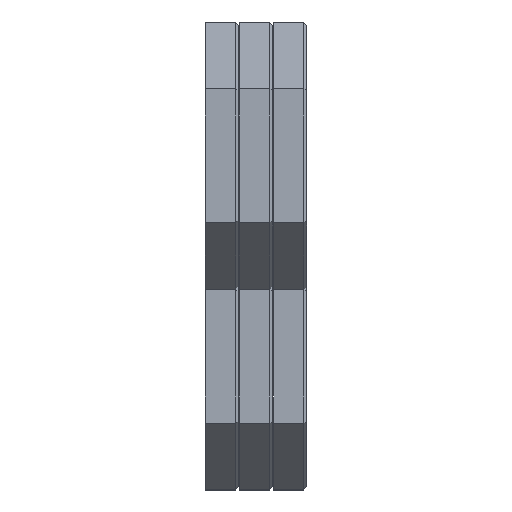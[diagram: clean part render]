
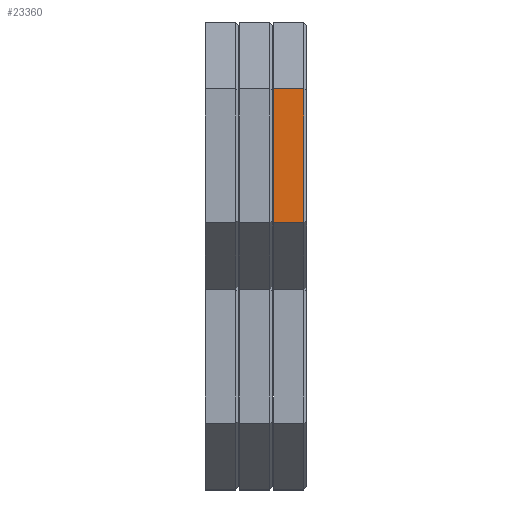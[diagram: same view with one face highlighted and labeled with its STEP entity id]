
A CAD part, front view. The second image highlights one B-rep face of the part: STEP entity #23360.
In plain terms, the highlighted planar face has unit normal (0, -1, 0).
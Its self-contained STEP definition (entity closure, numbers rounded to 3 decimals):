
#559=PLANE('',#24751);
#1547=FACE_OUTER_BOUND('',#2855,.T.);
#2855=EDGE_LOOP('',(#17176,#17177,#17178,#17179));
#5429=LINE('',#38973,#7940);
#5435=LINE('',#38983,#7946);
#5495=LINE('',#40161,#8006);
#5496=LINE('',#40162,#8007);
#7940=VECTOR('',#27144,10.);
#7946=VECTOR('',#27154,10.);
#8006=VECTOR('',#27290,10.);
#8007=VECTOR('',#27291,10.);
#10461=VERTEX_POINT('',#38966);
#10463=VERTEX_POINT('',#38972);
#10465=VERTEX_POINT('',#38981);
#10510=VERTEX_POINT('',#40160);
#12946=EDGE_CURVE('',#10461,#10463,#5429,.T.);
#12952=EDGE_CURVE('',#10461,#10465,#5435,.T.);
#13031=EDGE_CURVE('',#10510,#10465,#5495,.T.);
#13032=EDGE_CURVE('',#10463,#10510,#5496,.T.);
#17176=ORIENTED_EDGE('',*,*,#12946,.F.);
#17177=ORIENTED_EDGE('',*,*,#12952,.T.);
#17178=ORIENTED_EDGE('',*,*,#13031,.F.);
#17179=ORIENTED_EDGE('',*,*,#13032,.F.);
#23360=ADVANCED_FACE('',(#1547),#559,.T.);
#24751=AXIS2_PLACEMENT_3D('',#40159,#27288,#27289);
#27144=DIRECTION('',(0.,0.,-1.));
#27154=DIRECTION('',(-1.,0.,0.));
#27288=DIRECTION('center_axis',(0.,-1.,0.));
#27289=DIRECTION('ref_axis',(0.,0.,
1.));
#27290=DIRECTION('',(0.,0.,1.));
#27291=DIRECTION('',(-1.,0.,0.));
#38966=CARTESIAN_POINT('',(-0.5,-63.,84.87));
#38972=CARTESIAN_POINT('',(-0.5,-63.,60.622));
#38973=CARTESIAN_POINT('',(-0.5,-63.,66.684));
#38981=CARTESIAN_POINT('',(-6.,-63.,84.87));
#38983=CARTESIAN_POINT('',(0.,-63.,84.87));
#40159=CARTESIAN_POINT('Origin',(0.,-63.,
60.622));
#40160=CARTESIAN_POINT('',(-6.,-63.,60.622));
#40161=CARTESIAN_POINT('',(-6.,-63.,84.87));
#40162=CARTESIAN_POINT('',(0.,-63.,60.622));
